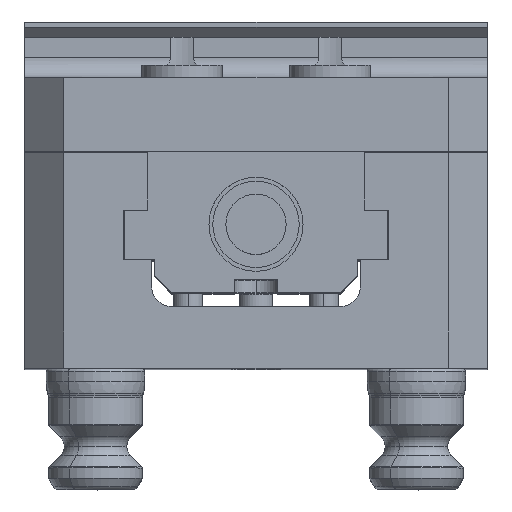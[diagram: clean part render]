
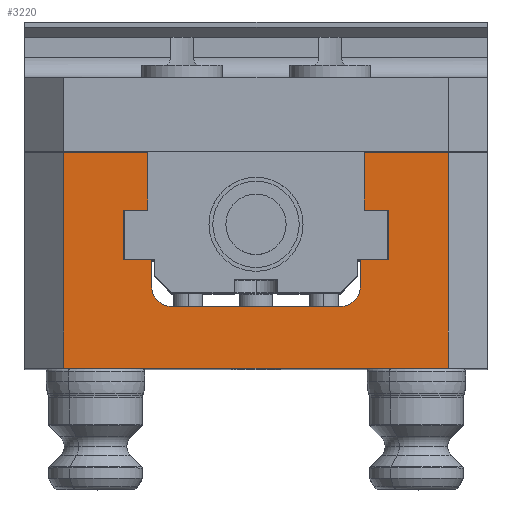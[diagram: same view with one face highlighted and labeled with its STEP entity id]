
A CAD part, top view. The second image highlights one B-rep face of the part: STEP entity #3220.
In plain terms, the highlighted planar face has unit normal (0, 0, 1).
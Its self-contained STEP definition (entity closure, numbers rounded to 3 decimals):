
#28 = VERTEX_POINT ( 'NONE', #184 ) ;
#184 = CARTESIAN_POINT ( 'NONE',  ( 21.5, -5.715, 75. ) ) ;
#197 = VECTOR ( 'NONE', #5299, 1000. ) ;
#223 = CARTESIAN_POINT ( 'NONE',  ( -21.5, -5.715, 75. ) ) ;
#245 = VECTOR ( 'NONE', #7492, 1000. ) ;
#345 = CARTESIAN_POINT ( 'NONE',  ( 16.891, -10.135, 75. ) ) ;
#474 = LINE ( 'NONE', #5450, #197 ) ;
#486 = DIRECTION ( 'NONE',  ( 1., 0., 0. ) ) ;
#567 = CIRCLE ( 'NONE', #7353, 3.175 ) ;
#604 = DIRECTION ( 'NONE',  ( 0., 0., -1. ) ) ;
#824 = VERTEX_POINT ( 'NONE', #8680 ) ;
#863 = DIRECTION ( 'NONE',  ( 0., 1., 0. ) ) ;
#876 = CARTESIAN_POINT ( 'NONE',  ( -21.5, 2.286, 75. ) ) ;
#881 = DIRECTION ( 'NONE',  ( -1., 0., 0. ) ) ;
#1052 = EDGE_CURVE ( 'NONE', #6334, #9782, #11092, .T. ) ;
#1111 = VECTOR ( 'NONE', #8273, 1000. ) ;
#1368 = LINE ( 'NONE', #3392, #10133 ) ;
#1687 = VECTOR ( 'NONE', #9301, 1000. ) ;
#1711 = DIRECTION ( 'NONE',  ( -1., 0., 0. ) ) ;
#1719 = CARTESIAN_POINT ( 'NONE',  ( -16.891, -10.135, 75. ) ) ;
#1721 = DIRECTION ( 'NONE',  ( 0., 1., 0. ) ) ;
#2082 = ORIENTED_EDGE ( 'NONE', *, *, #2913, .T. ) ;
#2115 = DIRECTION ( 'NONE',  ( -1., 0., 0. ) ) ;
#2133 = VECTOR ( 'NONE', #10318, 1000. ) ;
#2140 = CARTESIAN_POINT ( 'NONE',  ( -37.5, 11.684, 75. ) ) ;
#2169 = CARTESIAN_POINT ( 'NONE',  ( 31.15, -23.317, 75. ) ) ;
#2238 = FACE_OUTER_BOUND ( 'NONE', #6998, .T. ) ;
#2240 = EDGE_CURVE ( 'NONE', #8712, #6914, #11025, .T. ) ;
#2256 = CARTESIAN_POINT ( 'NONE',  ( 16.891, -5.715, 75. ) ) ;
#2304 = VECTOR ( 'NONE', #9234, 1000. ) ;
#2346 = ORIENTED_EDGE ( 'NONE', *, *, #2926, .T. ) ;
#2355 = CARTESIAN_POINT ( 'NONE',  ( 17.526, 11.684, 75. ) ) ;
#2671 = CARTESIAN_POINT ( 'NONE',  ( 13.716, -13.31, 75. ) ) ;
#2807 = CARTESIAN_POINT ( 'NONE',  ( 17.526, 11.684, 75. ) ) ;
#2875 = VERTEX_POINT ( 'NONE', #3825 ) ;
#2913 = EDGE_CURVE ( 'NONE', #8389, #28, #6560, .T. ) ;
#2926 = EDGE_CURVE ( 'NONE', #6914, #10753, #8572, .T. ) ;
#3220 = ADVANCED_FACE ( 'NONE', ( #2238 ), #8145, .T. ) ;
#3375 = DIRECTION ( 'NONE',  ( 1., 0., 0. ) ) ;
#3392 = CARTESIAN_POINT ( 'NONE',  ( -16.891, -5.715, 75. ) ) ;
#3411 = CARTESIAN_POINT ( 'NONE',  ( 31.15, 11.684, 75. ) ) ;
#3509 = ORIENTED_EDGE ( 'NONE', *, *, #5694, .T. ) ;
#3556 = DIRECTION ( 'NONE',  ( -1., 0., 0. ) ) ;
#3682 = ORIENTED_EDGE ( 'NONE', *, *, #8127, .T. ) ;
#3825 = CARTESIAN_POINT ( 'NONE',  ( -31.15, 11.684, 75. ) ) ;
#3902 = ORIENTED_EDGE ( 'NONE', *, *, #8429, .T. ) ;
#3909 = ORIENTED_EDGE ( 'NONE', *, *, #4120, .T. ) ;
#4048 = CARTESIAN_POINT ( 'NONE',  ( 17.526, 2.286, 75. ) ) ;
#4051 = ORIENTED_EDGE ( 'NONE', *, *, #7210, .F. ) ;
#4057 = CARTESIAN_POINT ( 'NONE',  ( 16.891, -5.715, 75. ) ) ;
#4075 = ORIENTED_EDGE ( 'NONE', *, *, #6044, .T. ) ;
#4116 = ORIENTED_EDGE ( 'NONE', *, *, #2240, .T. ) ;
#4120 = EDGE_CURVE ( 'NONE', #10304, #9465, #6924, .T. ) ;
#4192 = VERTEX_POINT ( 'NONE', #10154 ) ;
#4449 = ORIENTED_EDGE ( 'NONE', *, *, #8720, .T. ) ;
#4504 = VERTEX_POINT ( 'NONE', #10158 ) ;
#4644 = AXIS2_PLACEMENT_3D ( 'NONE', #8453, #6885, #1711 ) ;
#4739 = VERTEX_POINT ( 'NONE', #1719 ) ;
#4741 = LINE ( 'NONE', #6021, #9353 ) ;
#4864 = VECTOR ( 'NONE', #6704, 1000. ) ;
#5197 = CARTESIAN_POINT ( 'NONE',  ( -17.526, 11.684, 75. ) ) ;
#5203 = CARTESIAN_POINT ( 'NONE',  ( -37.5, -23.317, 75. ) ) ;
#5211 = CARTESIAN_POINT ( 'NONE',  ( -31.15, -23.317, 75. ) ) ;
#5215 = CARTESIAN_POINT ( 'NONE',  ( 21.5, -5.715, 75. ) ) ;
#5294 = VERTEX_POINT ( 'NONE', #5197 ) ;
#5299 = DIRECTION ( 'NONE',  ( 0., 1., 0. ) ) ;
#5307 = VERTEX_POINT ( 'NONE', #6808 ) ;
#5370 = EDGE_CURVE ( 'NONE', #4739, #4504, #1368, .T. ) ;
#5399 = VERTEX_POINT ( 'NONE', #10339 ) ;
#5450 = CARTESIAN_POINT ( 'NONE',  ( -21.5, 2.286, 75. ) ) ;
#5477 = AXIS2_PLACEMENT_3D ( 'NONE', #10751, #5560, #486 ) ;
#5545 = EDGE_CURVE ( 'NONE', #5294, #2875, #6756, .T. ) ;
#5560 = DIRECTION ( 'NONE',  ( 0., 0., 1. ) ) ;
#5592 = ORIENTED_EDGE ( 'NONE', *, *, #10657, .T. ) ;
#5635 = CARTESIAN_POINT ( 'NONE',  ( 31.15, -23.317, 75. ) ) ;
#5694 = EDGE_CURVE ( 'NONE', #4192, #4739, #567, .T. ) ;
#5715 = VECTOR ( 'NONE', #1721, 1000. ) ;
#5727 = EDGE_CURVE ( 'NONE', #10753, #10304, #7417, .T. ) ;
#5795 = CIRCLE ( 'NONE', #4644, 3.175 ) ;
#5797 = ORIENTED_EDGE ( 'NONE', *, *, #7684, .T. ) ;
#6021 = CARTESIAN_POINT ( 'NONE',  ( 17.526, 2.286, 75. ) ) ;
#6044 = EDGE_CURVE ( 'NONE', #5307, #4192, #11059, .T. ) ;
#6080 = ORIENTED_EDGE ( 'NONE', *, *, #5370, .T. ) ;
#6082 = VERTEX_POINT ( 'NONE', #876 ) ;
#6298 = VECTOR ( 'NONE', #881, 1000. ) ;
#6334 = VERTEX_POINT ( 'NONE', #2256 ) ;
#6560 = LINE ( 'NONE', #7316, #1687 ) ;
#6704 = DIRECTION ( 'NONE',  ( 0., -1., 0. ) ) ;
#6756 = LINE ( 'NONE', #2140, #9998 ) ;
#6808 = CARTESIAN_POINT ( 'NONE',  ( 13.716, -13.31, 75. ) ) ;
#6885 = DIRECTION ( 'NONE',  ( 0., 0., -1. ) ) ;
#6914 = VERTEX_POINT ( 'NONE', #5635 ) ;
#6924 = LINE ( 'NONE', #2355, #7725 ) ;
#6978 = DIRECTION ( 'NONE',  ( -1., 0., 0. ) ) ;
#6998 = EDGE_LOOP ( 'NONE', ( #4051, #4116, #2346, #7878, #3909, #4449, #2082, #5797, #8178, #10043, #4075, #3509, #6080, #5592, #3682, #10305, #3902, #9641 ) ) ;
#7058 = LINE ( 'NONE', #5215, #7590 ) ;
#7113 = CARTESIAN_POINT ( 'NONE',  ( -31.15, -23.317, 75. ) ) ;
#7210 = EDGE_CURVE ( 'NONE', #8712, #2875, #7357, .T. ) ;
#7273 = VECTOR ( 'NONE', #3556, 1000. ) ;
#7316 = CARTESIAN_POINT ( 'NONE',  ( 21.5, 2.286, 75. ) ) ;
#7353 = AXIS2_PLACEMENT_3D ( 'NONE', #7394, #604, #10007 ) ;
#7357 = LINE ( 'NONE', #5211, #5715 ) ;
#7394 = CARTESIAN_POINT ( 'NONE',  ( -13.716, -10.135, 75. ) ) ;
#7417 = LINE ( 'NONE', #10609, #2304 ) ;
#7492 = DIRECTION ( 'NONE',  ( 0., 1., 0. ) ) ;
#7590 = VECTOR ( 'NONE', #6978, 1000. ) ;
#7684 = EDGE_CURVE ( 'NONE', #28, #6334, #7058, .T. ) ;
#7725 = VECTOR ( 'NONE', #11022, 1000. ) ;
#7878 = ORIENTED_EDGE ( 'NONE', *, *, #5727, .T. ) ;
#8025 = EDGE_CURVE ( 'NONE', #6082, #824, #10558, .T. ) ;
#8127 = EDGE_CURVE ( 'NONE', #5399, #6082, #474, .T. ) ;
#8145 = PLANE ( 'NONE',  #5477 ) ;
#8178 = ORIENTED_EDGE ( 'NONE', *, *, #1052, .T. ) ;
#8273 = DIRECTION ( 'NONE',  ( 0., 1., 0. ) ) ;
#8389 = VERTEX_POINT ( 'NONE', #10694 ) ;
#8429 = EDGE_CURVE ( 'NONE', #824, #5294, #10955, .T. ) ;
#8453 = CARTESIAN_POINT ( 'NONE',  ( 13.716, -10.135, 75. ) ) ;
#8572 = LINE ( 'NONE', #2169, #245 ) ;
#8680 = CARTESIAN_POINT ( 'NONE',  ( -17.526, 2.286, 75. ) ) ;
#8712 = VERTEX_POINT ( 'NONE', #7113 ) ;
#8720 = EDGE_CURVE ( 'NONE', #9465, #8389, #4741, .T. ) ;
#8749 = CARTESIAN_POINT ( 'NONE',  ( -17.526, 2.286, 75. ) ) ;
#9031 = EDGE_CURVE ( 'NONE', #9782, #5307, #5795, .T. ) ;
#9045 = CARTESIAN_POINT ( 'NONE',  ( -17.526, 11.684, 75. ) ) ;
#9234 = DIRECTION ( 'NONE',  ( -1., 0., 0. ) ) ;
#9301 = DIRECTION ( 'NONE',  ( 0., -1., 0. ) ) ;
#9353 = VECTOR ( 'NONE', #3375, 1000. ) ;
#9465 = VERTEX_POINT ( 'NONE', #4048 ) ;
#9641 = ORIENTED_EDGE ( 'NONE', *, *, #5545, .T. ) ;
#9706 = DIRECTION ( 'NONE',  ( 1., 0., 0. ) ) ;
#9782 = VERTEX_POINT ( 'NONE', #345 ) ;
#9905 = VECTOR ( 'NONE', #9706, 1000. ) ;
#9998 = VECTOR ( 'NONE', #2115, 1000. ) ;
#10007 = DIRECTION ( 'NONE',  ( 1., 0., 0. ) ) ;
#10043 = ORIENTED_EDGE ( 'NONE', *, *, #9031, .T. ) ;
#10133 = VECTOR ( 'NONE', #863, 1000. ) ;
#10154 = CARTESIAN_POINT ( 'NONE',  ( -13.716, -13.31, 75. ) ) ;
#10158 = CARTESIAN_POINT ( 'NONE',  ( -16.891, -5.715, 75. ) ) ;
#10304 = VERTEX_POINT ( 'NONE', #2807 ) ;
#10305 = ORIENTED_EDGE ( 'NONE', *, *, #8025, .T. ) ;
#10318 = DIRECTION ( 'NONE',  ( 1., 0., 0. ) ) ;
#10339 = CARTESIAN_POINT ( 'NONE',  ( -21.5, -5.715, 75. ) ) ;
#10558 = LINE ( 'NONE', #8749, #9905 ) ;
#10609 = CARTESIAN_POINT ( 'NONE',  ( 17.526, 11.684, 75. ) ) ;
#10657 = EDGE_CURVE ( 'NONE', #4504, #5399, #10898, .T. ) ;
#10694 = CARTESIAN_POINT ( 'NONE',  ( 21.5, 2.286, 75. ) ) ;
#10751 = CARTESIAN_POINT ( 'NONE',  ( -13.716, -10.135, 75. ) ) ;
#10753 = VERTEX_POINT ( 'NONE', #3411 ) ;
#10898 = LINE ( 'NONE', #223, #6298 ) ;
#10955 = LINE ( 'NONE', #9045, #1111 ) ;
#11022 = DIRECTION ( 'NONE',  ( 0., -1., 0. ) ) ;
#11025 = LINE ( 'NONE', #5203, #2133 ) ;
#11059 = LINE ( 'NONE', #2671, #7273 ) ;
#11092 = LINE ( 'NONE', #4057, #4864 ) ;
